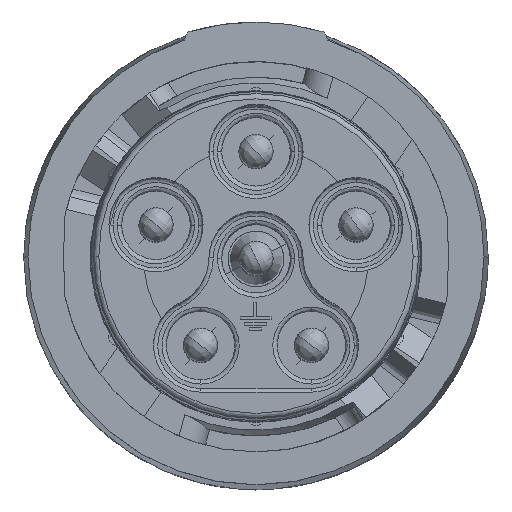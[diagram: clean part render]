
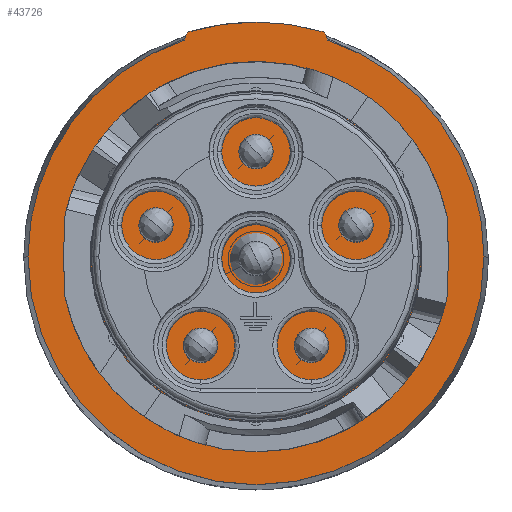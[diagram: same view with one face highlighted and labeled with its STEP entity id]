
A CAD part, top view. The second image highlights one B-rep face of the part: STEP entity #43726.
In plain terms, the highlighted planar face has unit normal (0, 0, 1).
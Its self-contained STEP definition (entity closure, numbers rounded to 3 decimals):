
#5703 = DIRECTION ( 'NONE',  ( 0., 0., -1. ) ) ;
#8186 = CARTESIAN_POINT ( 'NONE',  ( -4.524, 9.196, -14.571 ) ) ;
#9991 = DIRECTION ( 'NONE',  ( 1., 0., 0. ) ) ;
#11004 = VERTEX_POINT ( 'NONE', #70119 ) ;
#11872 = VERTEX_POINT ( 'NONE', #37811 ) ;
#15355 = CIRCLE ( 'NONE', #41068, 10.66 ) ;
#17734 = CIRCLE ( 'NONE', #56481, 0.332 ) ;
#18890 = CARTESIAN_POINT ( 'NONE',  ( -1.199, -1.014, -14.571 ) ) ;
#19990 = EDGE_CURVE ( 'NONE', #75118, #67267, #15355, .T. ) ;
#20236 = CARTESIAN_POINT ( 'NONE',  ( -4.524, 9.114, -14.571 ) ) ;
#23069 = DIRECTION ( 'NONE',  ( 0., 1., 0. ) ) ;
#23812 = ORIENTED_EDGE ( 'NONE', *, *, #37416, .T. ) ;
#24843 = DIRECTION ( 'NONE',  ( 0., 0., 1. ) ) ;
#25526 = CARTESIAN_POINT ( 'NONE',  ( 1.793, 9.196, -14.571 ) ) ;
#25873 = PLANE ( 'NONE',  #34138 ) ;
#26402 = EDGE_LOOP ( 'NONE', ( #69734, #27706, #80352, #39579, #66535, #23812, #57490, #39000 ) ) ;
#27706 = ORIENTED_EDGE ( 'NONE', *, *, #73362, .F. ) ;
#28888 = DIRECTION ( 'NONE',  ( 0., 0., 1. ) ) ;
#32570 = CARTESIAN_POINT ( 'NONE',  ( -11.785, 10.087, -14.571 ) ) ;
#34138 = AXIS2_PLACEMENT_3D ( 'NONE', #32570, #5703, #73866 ) ;
#35145 = VECTOR ( 'NONE', #79537, 1000. ) ;
#35740 = DIRECTION ( 'NONE',  ( 1., 0., 0. ) ) ;
#36483 = CARTESIAN_POINT ( 'NONE',  ( -1.199, -1.014, -14.571 ) ) ;
#37416 = EDGE_CURVE ( 'NONE', #80564, #11004, #84344, .T. ) ;
#37811 = CARTESIAN_POINT ( 'NONE',  ( 1.887, 9.515, -14.571 ) ) ;
#38196 = VERTEX_POINT ( 'NONE', #59858 ) ;
#39000 = ORIENTED_EDGE ( 'NONE', *, *, #19990, .T. ) ;
#39579 = ORIENTED_EDGE ( 'NONE', *, *, #56692, .F. ) ;
#41068 = AXIS2_PLACEMENT_3D ( 'NONE', #71225, #70774, #35740 ) ;
#43726 = ADVANCED_FACE ( 'NONE', ( #73436 ), #25873, .F. ) ;
#43728 = DIRECTION ( 'NONE',  ( 1., 0., 0. ) ) ;
#44258 = VERTEX_POINT ( 'NONE', #81028 ) ;
#44385 = EDGE_CURVE ( 'NONE', #11872, #44258, #77276, .T. ) ;
#44605 = DIRECTION ( 'NONE',  ( 1., 0., 0. ) ) ;
#45143 = AXIS2_PLACEMENT_3D ( 'NONE', #25526, #74424, #66797 ) ;
#50014 = DIRECTION ( 'NONE',  ( 1., 0., 0. ) ) ;
#52279 = EDGE_CURVE ( 'NONE', #38196, #67267, #58969, .T. ) ;
#55943 = VERTEX_POINT ( 'NONE', #8186 ) ;
#56481 = AXIS2_PLACEMENT_3D ( 'NONE', #84888, #78144, #9991 ) ;
#56692 = EDGE_CURVE ( 'NONE', #55943, #44258, #17734, .T. ) ;
#57244 = AXIS2_PLACEMENT_3D ( 'NONE', #18890, #66957, #43728 ) ;
#57490 = ORIENTED_EDGE ( 'NONE', *, *, #87004, .T. ) ;
#58556 = AXIS2_PLACEMENT_3D ( 'NONE', #64808, #24843, #44605 ) ;
#58969 = LINE ( 'NONE', #65708, #35145 ) ;
#59460 = CARTESIAN_POINT ( 'NONE',  ( 2.126, 9.114, -14.571 ) ) ;
#59858 = CARTESIAN_POINT ( 'NONE',  ( 2.126, 9.196, -14.571 ) ) ;
#64808 = CARTESIAN_POINT ( 'NONE',  ( -1.199, -1.014, -14.571 ) ) ;
#65179 = CIRCLE ( 'NONE', #45143, 0.332 ) ;
#65708 = CARTESIAN_POINT ( 'NONE',  ( 2.126, 9.05, -14.571 ) ) ;
#66535 = ORIENTED_EDGE ( 'NONE', *, *, #72771, .F. ) ;
#66797 = DIRECTION ( 'NONE',  ( 1., 0., 0. ) ) ;
#66957 = DIRECTION ( 'NONE',  ( 0., 0., 1. ) ) ;
#67267 = VERTEX_POINT ( 'NONE', #59460 ) ;
#67323 = AXIS2_PLACEMENT_3D ( 'NONE', #36483, #28888, #50014 ) ;
#69734 = ORIENTED_EDGE ( 'NONE', *, *, #52279, .F. ) ;
#70119 = CARTESIAN_POINT ( 'NONE',  ( -11.859, -1.014, -14.571 ) ) ;
#70663 = LINE ( 'NONE', #84525, #72516 ) ;
#70774 = DIRECTION ( 'NONE',  ( 0., 0., 1. ) ) ;
#71225 = CARTESIAN_POINT ( 'NONE',  ( -1.199, -1.014, -14.571 ) ) ;
#72516 = VECTOR ( 'NONE', #23069, 1000. ) ;
#72771 = EDGE_CURVE ( 'NONE', #80564, #55943, #70663, .T. ) ;
#73362 = EDGE_CURVE ( 'NONE', #11872, #38196, #65179, .T. ) ;
#73436 = FACE_OUTER_BOUND ( 'NONE', #26402, .T. ) ;
#73866 = DIRECTION ( 'NONE',  ( 1., 0., 0. ) ) ;
#74424 = DIRECTION ( 'NONE',  ( 0., 0., -1. ) ) ;
#75118 = VERTEX_POINT ( 'NONE', #83684 ) ;
#77276 = CIRCLE ( 'NONE', #67323, 10.973 ) ;
#78144 = DIRECTION ( 'NONE',  ( 0., 0., -1. ) ) ;
#79537 = DIRECTION ( 'NONE',  ( 0., -1., 0. ) ) ;
#80352 = ORIENTED_EDGE ( 'NONE', *, *, #44385, .T. ) ;
#80564 = VERTEX_POINT ( 'NONE', #20236 ) ;
#81028 = CARTESIAN_POINT ( 'NONE',  ( -4.285, 9.515, -14.571 ) ) ;
#83684 = CARTESIAN_POINT ( 'NONE',  ( 9.461, -1.014, -14.571 ) ) ;
#84344 = CIRCLE ( 'NONE', #58556, 10.66 ) ;
#84525 = CARTESIAN_POINT ( 'NONE',  ( -4.524, 9.05, -14.571 ) ) ;
#84888 = CARTESIAN_POINT ( 'NONE',  ( -4.192, 9.196, -14.571 ) ) ;
#87004 = EDGE_CURVE ( 'NONE', #11004, #75118, #87259, .T. ) ;
#87259 = CIRCLE ( 'NONE', #57244, 10.66 ) ;
